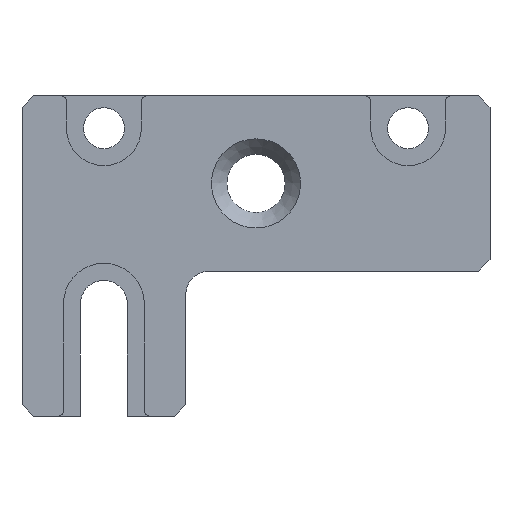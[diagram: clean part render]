
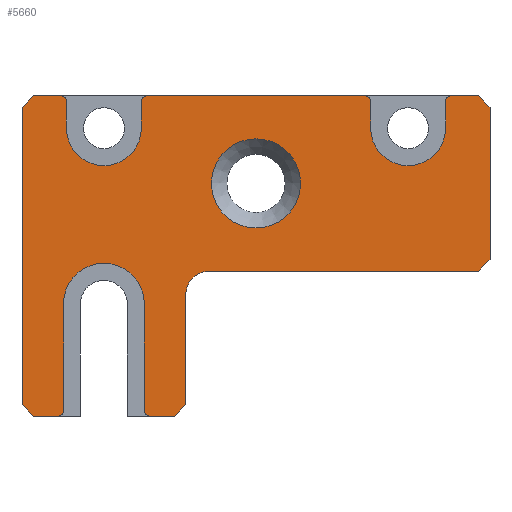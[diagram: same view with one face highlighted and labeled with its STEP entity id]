
A CAD part, front view. The second image highlights one B-rep face of the part: STEP entity #5660.
In plain terms, the highlighted planar face has unit normal (0, -1, 0).
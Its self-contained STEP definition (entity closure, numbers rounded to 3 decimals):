
#403=FACE_BOUND($,#938,.T.);
#443=PLANE($,#5971);
#639=FACE_OUTER_BOUND($,#937,.T.);
#937=EDGE_LOOP($,(#3966,#3967,#3968,#3969,#3970,#3971,#3972,#3973,#3974,
#3975,#3976,#3977,#3978,#3979,#3980,#3981,#3982,#3983,#3984,#3985,#3986,
#3987,#3988,#3989,#3990,#3991,#3992,#3993,#3994,#3995));
#938=EDGE_LOOP($,(#3996));
#1275=LINE($,#7323,#1898);
#1279=LINE($,#7331,#1902);
#1280=LINE($,#7335,#1903);
#1281=LINE($,#7339,#1904);
#1282=LINE($,#7341,#1905);
#1283=LINE($,#7343,#1906);
#1284=LINE($,#7347,#1907);
#1285=LINE($,#7349,#1908);
#1286=LINE($,#7351,#1909);
#1287=LINE($,#7353,#1910);
#1288=LINE($,#7355,#1911);
#1289=LINE($,#7359,#1912);
#1290=LINE($,#7363,#1913);
#1291=LINE($,#7367,#1914);
#1292=LINE($,#7371,#1915);
#1293=LINE($,#7375,#1916);
#1294=LINE($,#7379,#1917);
#1295=LINE($,#7381,#1918);
#1296=LINE($,#7383,#1919);
#1297=LINE($,#7384,#1920);
#1898=VECTOR($,#6219,2.05);
#1902=VECTOR($,#6225,9.127);
#1903=VECTOR($,#6228,9.127);
#1904=VECTOR($,#6231,2.05);
#1905=VECTOR($,#6232,1.414);
#1906=VECTOR($,#6233,9.41);
#1907=VECTOR($,#6236,23.);
#1908=VECTOR($,#6237,1.414);
#1909=VECTOR($,#6238,13.);
#1910=VECTOR($,#6239,1.414);
#1911=VECTOR($,#6240,2.3);
#1912=VECTOR($,#6243,2.283);
#1913=VECTOR($,#6246,2.283);
#1914=VECTOR($,#6249,18.6);
#1915=VECTOR($,#6252,2.283);
#1916=VECTOR($,#6255,2.283);
#1917=VECTOR($,#6258,2.3);
#1918=VECTOR($,#6259,1.414);
#1919=VECTOR($,#6260,25.41);
#1920=VECTOR($,#6261,1.414);
#2518=CIRCLE($,#5968,0.5);
#2520=CIRCLE($,#5972,3.45);
#2521=CIRCLE($,#5973,0.5);
#2522=CIRCLE($,#5974,2.);
#2523=CIRCLE($,#5975,0.5);
#2524=CIRCLE($,#5976,3.2);
#2525=CIRCLE($,#5977,0.5);
#2526=CIRCLE($,#5978,0.5);
#2527=CIRCLE($,#5979,3.2);
#2528=CIRCLE($,#5980,0.5);
#2529=CIRCLE($,#5981,3.81);
#2547=VERTEX_POINT($,#7311);
#2548=VERTEX_POINT($,#7312);
#2552=VERTEX_POINT($,#7322);
#2555=VERTEX_POINT($,#7330);
#2556=VERTEX_POINT($,#7332);
#2557=VERTEX_POINT($,#7334);
#2558=VERTEX_POINT($,#7336);
#2559=VERTEX_POINT($,#7338);
#2560=VERTEX_POINT($,#7340);
#2561=VERTEX_POINT($,#7342);
#2562=VERTEX_POINT($,#7344);
#2563=VERTEX_POINT($,#7346);
#2564=VERTEX_POINT($,#7348);
#2565=VERTEX_POINT($,#7350);
#2566=VERTEX_POINT($,#7352);
#2567=VERTEX_POINT($,#7354);
#2568=VERTEX_POINT($,#7356);
#2569=VERTEX_POINT($,#7358);
#2570=VERTEX_POINT($,#7360);
#2571=VERTEX_POINT($,#7362);
#2572=VERTEX_POINT($,#7364);
#2573=VERTEX_POINT($,#7366);
#2574=VERTEX_POINT($,#7368);
#2575=VERTEX_POINT($,#7370);
#2576=VERTEX_POINT($,#7372);
#2577=VERTEX_POINT($,#7374);
#2578=VERTEX_POINT($,#7376);
#2579=VERTEX_POINT($,#7378);
#2580=VERTEX_POINT($,#7380);
#2581=VERTEX_POINT($,#7382);
#2582=VERTEX_POINT($,#7385);
#3112=EDGE_CURVE($,#2547,#2548,#2518,.T.);
#3117=EDGE_CURVE($,#2552,#2548,#1275,.T.);
#3121=EDGE_CURVE($,#2547,#2555,#1279,.T.);
#3122=EDGE_CURVE($,#2555,#2556,#2520,.T.);
#3123=EDGE_CURVE($,#2556,#2557,#1280,.T.);
#3124=EDGE_CURVE($,#2558,#2557,#2521,.T.);
#3125=EDGE_CURVE($,#2558,#2559,#1281,.T.);
#3126=EDGE_CURVE($,#2560,#2559,#1282,.T.);
#3127=EDGE_CURVE($,#2560,#2561,#1283,.T.);
#3128=EDGE_CURVE($,#2562,#2561,#2522,.T.);
#3129=EDGE_CURVE($,#2562,#2563,#1284,.T.);
#3130=EDGE_CURVE($,#2564,#2563,#1285,.T.);
#3131=EDGE_CURVE($,#2564,#2565,#1286,.T.);
#3132=EDGE_CURVE($,#2566,#2565,#1287,.T.);
#3133=EDGE_CURVE($,#2566,#2567,#1288,.T.);
#3134=EDGE_CURVE($,#2568,#2567,#2523,.T.);
#3135=EDGE_CURVE($,#2568,#2569,#1289,.T.);
#3136=EDGE_CURVE($,#2569,#2570,#2524,.T.);
#3137=EDGE_CURVE($,#2570,#2571,#1290,.T.);
#3138=EDGE_CURVE($,#2572,#2571,#2525,.T.);
#3139=EDGE_CURVE($,#2572,#2573,#1291,.T.);
#3140=EDGE_CURVE($,#2574,#2573,#2526,.T.);
#3141=EDGE_CURVE($,#2574,#2575,#1292,.T.);
#3142=EDGE_CURVE($,#2575,#2576,#2527,.T.);
#3143=EDGE_CURVE($,#2576,#2577,#1293,.T.);
#3144=EDGE_CURVE($,#2578,#2577,#2528,.T.);
#3145=EDGE_CURVE($,#2578,#2579,#1294,.T.);
#3146=EDGE_CURVE($,#2580,#2579,#1295,.T.);
#3147=EDGE_CURVE($,#2580,#2581,#1296,.T.);
#3148=EDGE_CURVE($,#2552,#2581,#1297,.T.);
#3149=EDGE_CURVE($,#2582,#2582,#2529,.T.);
#3966=ORIENTED_EDGE($,*,*,#3112,.F.);
#3967=ORIENTED_EDGE($,*,*,#3121,.T.);
#3968=ORIENTED_EDGE($,*,*,#3122,.T.);
#3969=ORIENTED_EDGE($,*,*,#3123,.T.);
#3970=ORIENTED_EDGE($,*,*,#3124,.F.);
#3971=ORIENTED_EDGE($,*,*,#3125,.T.);
#3972=ORIENTED_EDGE($,*,*,#3126,.F.);
#3973=ORIENTED_EDGE($,*,*,#3127,.T.);
#3974=ORIENTED_EDGE($,*,*,#3128,.F.);
#3975=ORIENTED_EDGE($,*,*,#3129,.T.);
#3976=ORIENTED_EDGE($,*,*,#3130,.F.);
#3977=ORIENTED_EDGE($,*,*,#3131,.T.);
#3978=ORIENTED_EDGE($,*,*,#3132,.F.);
#3979=ORIENTED_EDGE($,*,*,#3133,.T.);
#3980=ORIENTED_EDGE($,*,*,#3134,.F.);
#3981=ORIENTED_EDGE($,*,*,#3135,.T.);
#3982=ORIENTED_EDGE($,*,*,#3136,.T.);
#3983=ORIENTED_EDGE($,*,*,#3137,.T.);
#3984=ORIENTED_EDGE($,*,*,#3138,.F.);
#3985=ORIENTED_EDGE($,*,*,#3139,.T.);
#3986=ORIENTED_EDGE($,*,*,#3140,.F.);
#3987=ORIENTED_EDGE($,*,*,#3141,.T.);
#3988=ORIENTED_EDGE($,*,*,#3142,.T.);
#3989=ORIENTED_EDGE($,*,*,#3143,.T.);
#3990=ORIENTED_EDGE($,*,*,#3144,.F.);
#3991=ORIENTED_EDGE($,*,*,#3145,.T.);
#3992=ORIENTED_EDGE($,*,*,#3146,.F.);
#3993=ORIENTED_EDGE($,*,*,#3147,.T.);
#3994=ORIENTED_EDGE($,*,*,#3148,.F.);
#3995=ORIENTED_EDGE($,*,*,#3117,.T.);
#3996=ORIENTED_EDGE($,*,*,#3149,.T.);
#5660=ADVANCED_FACE($,(#639,#403),#443,.T.);
#5968=AXIS2_PLACEMENT_3D($,#7313,#6210,#6211);
#5971=AXIS2_PLACEMENT_3D($,#7329,#6223,#6224);
#5972=AXIS2_PLACEMENT_3D($,#7333,#6226,#6227);
#5973=AXIS2_PLACEMENT_3D($,#7337,#6229,#6230);
#5974=AXIS2_PLACEMENT_3D($,#7345,#6234,#6235);
#5975=AXIS2_PLACEMENT_3D($,#7357,#6241,#6242);
#5976=AXIS2_PLACEMENT_3D($,#7361,#6244,#6245);
#5977=AXIS2_PLACEMENT_3D($,#7365,#6247,#6248);
#5978=AXIS2_PLACEMENT_3D($,#7369,#6250,#6251);
#5979=AXIS2_PLACEMENT_3D($,#7373,#6253,#6254);
#5980=AXIS2_PLACEMENT_3D($,#7377,#6256,#6257);
#5981=AXIS2_PLACEMENT_3D($,#7386,#6262,#6263);
#6210=DIRECTION('center_axis',(0.,1.,0.));
#6211=DIRECTION('ref_axis',(0.707,0.,-0.707));
#6219=DIRECTION($,(1.,0.,0.));
#6223=DIRECTION('center_axis',(0.,-1.,0.));
#6224=DIRECTION('ref_axis',(0.,0.,-1.));
#6225=DIRECTION($,(0.,0.,1.));
#6226=DIRECTION('center_axis',(0.,1.,0.));
#6227=DIRECTION('ref_axis',(1.,0.,0.));
#6228=DIRECTION($,(0.,0.,-1.));
#6229=DIRECTION('center_axis',(0.,1.,0.));
#6230=DIRECTION('ref_axis',(-0.707,0.,-0.707));
#6231=DIRECTION($,(1.,0.,0.));
#6232=DIRECTION($,(-0.707,0.,-0.707));
#6233=DIRECTION($,(0.,0.,1.));
#6234=DIRECTION('center_axis',(0.,-1.,0.));
#6235=DIRECTION('ref_axis',(-0.707,0.,0.707));
#6236=DIRECTION($,(1.,0.,0.));
#6237=DIRECTION($,(-0.707,0.,-0.707));
#6238=DIRECTION($,(0.,0.,1.));
#6239=DIRECTION($,(0.707,0.,-0.707));
#6240=DIRECTION($,(-1.,0.,0.));
#6241=DIRECTION('center_axis',(0.,1.,0.));
#6242=DIRECTION('ref_axis',(-0.707,0.,0.707));
#6243=DIRECTION($,(0.,0.,-1.));
#6244=DIRECTION('center_axis',(0.,1.,0.));
#6245=DIRECTION('ref_axis',(1.,0.,0.));
#6246=DIRECTION($,(0.,0.,1.));
#6247=DIRECTION('center_axis',(0.,1.,0.));
#6248=DIRECTION('ref_axis',(0.707,0.,0.707));
#6249=DIRECTION($,(-1.,0.,0.));
#6250=DIRECTION('center_axis',(0.,1.,0.));
#6251=DIRECTION('ref_axis',(-0.707,0.,0.707));
#6252=DIRECTION($,(0.,0.,-1.));
#6253=DIRECTION('center_axis',(0.,1.,0.));
#6254=DIRECTION('ref_axis',(1.,0.,0.));
#6255=DIRECTION($,(0.,0.,1.));
#6256=DIRECTION('center_axis',(0.,1.,0.));
#6257=DIRECTION('ref_axis',(0.707,0.,0.707));
#6258=DIRECTION($,(-1.,0.,0.));
#6259=DIRECTION($,(0.707,0.,0.707));
#6260=DIRECTION($,(0.,0.,-1.));
#6261=DIRECTION($,(-0.707,0.,0.707));
#6262=DIRECTION('center_axis',(0.,1.,0.));
#6263=DIRECTION('ref_axis',(1.,0.,0.));
#7311=CARTESIAN_POINT('',(-16.45,-3.,-19.41));
#7312=CARTESIAN_POINT('',(-16.95,-3.,-19.91));
#7313=CARTESIAN_POINT('Origin',(-16.95,-3.,-19.41));
#7322=CARTESIAN_POINT('',(-19.,-3.,-19.91));
#7323=CARTESIAN_POINT($,(-20.,-3.,-19.91));
#7329=CARTESIAN_POINT('Origin',(0.,-3.,0.));
#7330=CARTESIAN_POINT('',(-16.45,-3.,-10.283));
#7331=CARTESIAN_POINT($,(-16.45,-3.,-9.955));
#7332=CARTESIAN_POINT('',(-9.55,-3.,-10.283));
#7333=CARTESIAN_POINT('Origin',(-13.,-3.,-10.283));
#7334=CARTESIAN_POINT('',(-9.55,-3.,-19.41));
#7335=CARTESIAN_POINT($,(-9.55,-3.,-5.142));
#7336=CARTESIAN_POINT('',(-9.05,-3.,-19.91));
#7337=CARTESIAN_POINT('Origin',(-9.05,-3.,-19.41));
#7338=CARTESIAN_POINT('',(-7.,-3.,-19.91));
#7339=CARTESIAN_POINT($,(-20.,-3.,-19.91));
#7340=CARTESIAN_POINT('',(-6.,-3.,-18.91));
#7341=CARTESIAN_POINT($,(-0.023,-3.,-12.932));
#7342=CARTESIAN_POINT('',(-6.,-3.,-9.5));
#7343=CARTESIAN_POINT($,(-6.,-3.,-19.91));
#7344=CARTESIAN_POINT('',(-4.,-3.,-7.5));
#7345=CARTESIAN_POINT('Origin',(-4.,-3.,-9.5));
#7346=CARTESIAN_POINT('',(19.,-3.,-7.5));
#7347=CARTESIAN_POINT($,(-20.,-3.,-7.5));
#7348=CARTESIAN_POINT('',(20.,-3.,-6.5));
#7349=CARTESIAN_POINT($,(16.375,-3.,-10.125));
#7350=CARTESIAN_POINT('',(20.,-3.,6.5));
#7351=CARTESIAN_POINT($,(20.,-3.,-7.5));
#7352=CARTESIAN_POINT('',(19.,-3.,7.5));
#7353=CARTESIAN_POINT($,(16.375,-3.,10.125));
#7354=CARTESIAN_POINT('',(16.7,-3.,7.5));
#7355=CARTESIAN_POINT($,(20.,-3.,7.5));
#7356=CARTESIAN_POINT('',(16.2,-3.,7.));
#7357=CARTESIAN_POINT('Origin',(16.7,-3.,7.));
#7358=CARTESIAN_POINT('',(16.2,-3.,4.717));
#7359=CARTESIAN_POINT($,(16.2,-3.,3.75));
#7360=CARTESIAN_POINT('',(9.8,-3.,4.717));
#7361=CARTESIAN_POINT('Origin',(13.,-3.,4.717));
#7362=CARTESIAN_POINT('',(9.8,-3.,7.));
#7363=CARTESIAN_POINT($,(9.8,-3.,2.359));
#7364=CARTESIAN_POINT('',(9.3,-3.,7.5));
#7365=CARTESIAN_POINT('Origin',(9.3,-3.,7.));
#7366=CARTESIAN_POINT('',(-9.3,-3.,7.5));
#7367=CARTESIAN_POINT($,(20.,-3.,7.5));
#7368=CARTESIAN_POINT('',(-9.8,-3.,7.));
#7369=CARTESIAN_POINT('Origin',(-9.3,-3.,7.));
#7370=CARTESIAN_POINT('',(-9.8,-3.,4.717));
#7371=CARTESIAN_POINT($,(-9.8,-3.,3.75));
#7372=CARTESIAN_POINT('',(-16.2,-3.,4.717));
#7373=CARTESIAN_POINT('Origin',(-13.,-3.,4.717));
#7374=CARTESIAN_POINT('',(-16.2,-3.,7.));
#7375=CARTESIAN_POINT($,(-16.2,-3.,2.359));
#7376=CARTESIAN_POINT('',(-16.7,-3.,7.5));
#7377=CARTESIAN_POINT('Origin',(-16.7,-3.,7.));
#7378=CARTESIAN_POINT('',(-19.,-3.,7.5));
#7379=CARTESIAN_POINT($,(20.,-3.,7.5));
#7380=CARTESIAN_POINT('',(-20.,-3.,6.5));
#7381=CARTESIAN_POINT($,(-16.375,-3.,10.125));
#7382=CARTESIAN_POINT('',(-20.,-3.,-18.91));
#7383=CARTESIAN_POINT($,(-20.,-3.,7.5));
#7384=CARTESIAN_POINT($,(-19.478,-3.,-19.433));
#7385=CARTESIAN_POINT('',(3.81,-3.,0.));
#7386=CARTESIAN_POINT('Origin',(0.,-3.,0.));
